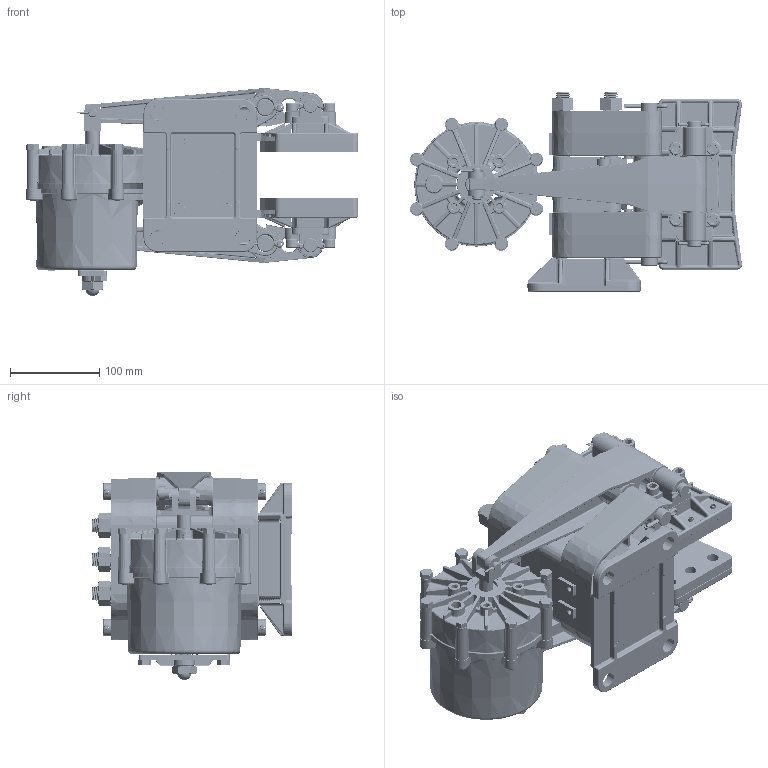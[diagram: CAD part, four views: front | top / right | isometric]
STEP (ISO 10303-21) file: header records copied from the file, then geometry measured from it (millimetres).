
FILE_DESCRIPTION (( 'STEP AP214' ), '1' );
FILE_NAME ('5021-SA-LH.STEP', '2016-06-02T17:31:36', ( 'User' ), ( 'Microsoft' ), 'SwSTEP 2.0', 'SolidWorks 2015', '' );
FILE_SCHEMA (( 'AUTOMOTIVE_DESIGN' ));
Length unit declared in the file: inch
Products named in the file (1): 5021-SA-LH
Bounding box: 372.26 x 224.03 x 233.35 mm (x, y, z)
Surface area: 747175.5 mm2 (no closed solid volume)
Topology: 0 solids, 145 shells, 4022 faces, 12431 edges, 8113 vertices
Faces by surface type: cylinder 1303, plane 923, bspline 724, cone 580, torus 465, sphere 27
Entity records: 242106 total; most frequent: CARTESIAN_POINT 91421, ORIENTED_EDGE 20030, DIRECTION 19144, EDGE_CURVE 12340, VERTEX_POINT 8113, AXIS2_PLACEMENT_3D 7645, EDGE_LOOP 4347, CIRCLE 4346
